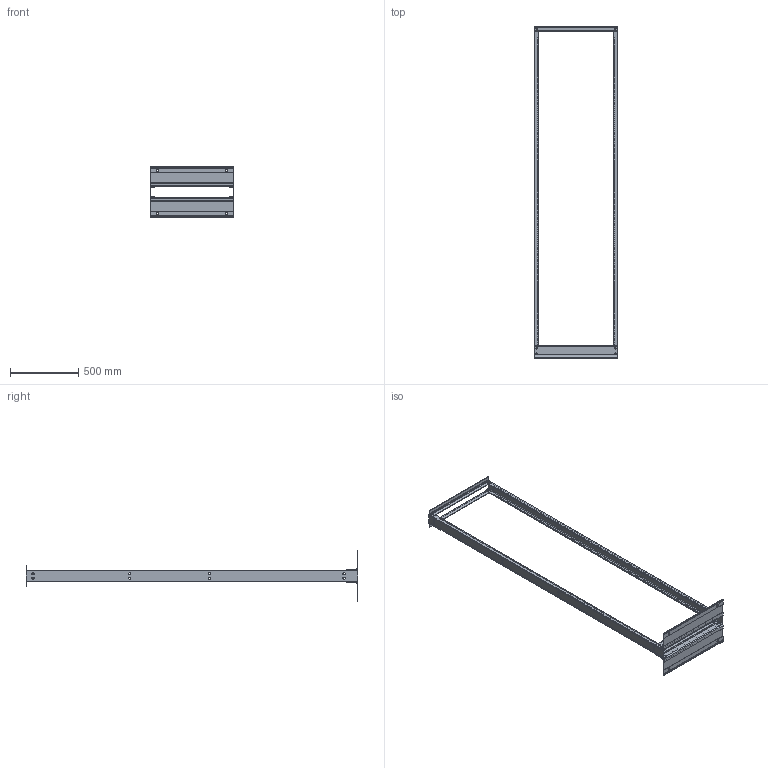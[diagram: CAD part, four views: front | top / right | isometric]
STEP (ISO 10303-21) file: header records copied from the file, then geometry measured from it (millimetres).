
FILE_DESCRIPTION (( 'STEP AP203' ), '1' );
FILE_NAME ('edr23fm51u.STEP', '2013-02-21T13:57:14', ( 'User' ), ( 'Pentair Inc' ), 'SwSTEP 2.0', 'SolidWorks 2010', '' );
FILE_SCHEMA (( 'CONFIG_CONTROL_DESIGN' ));
Length unit declared in the file: inch
Products named in the file (4): edr23fm51u; 87798812_87949173; 87952138_87952138; 87952141_87952141
Assembly tree (6 placements, depth 2):
  edr23fm51u
    87798812_87949173  x2
    87952141_87952141  x2
    87952138_87952138  x2
Bounding box: 616.76 x 2438.4 x 381 mm (x, y, z)
Volume: 4563174.2 mm3; surface area: 2101319.3 mm2
Topology: 6 solids, 6 shells, 1408 faces, 4188 edges, 2792 vertices
Faces by surface type: cylinder 1328, plane 80
Entity records: 26256 total; most frequent: DIRECTION 4848, CARTESIAN_POINT 4203, ORIENTED_EDGE 4188, EDGE_CURVE 2094, AXIS2_PLACEMENT_3D 2041, VERTEX_POINT 1396, EDGE_LOOP 1360, CIRCLE 1328
